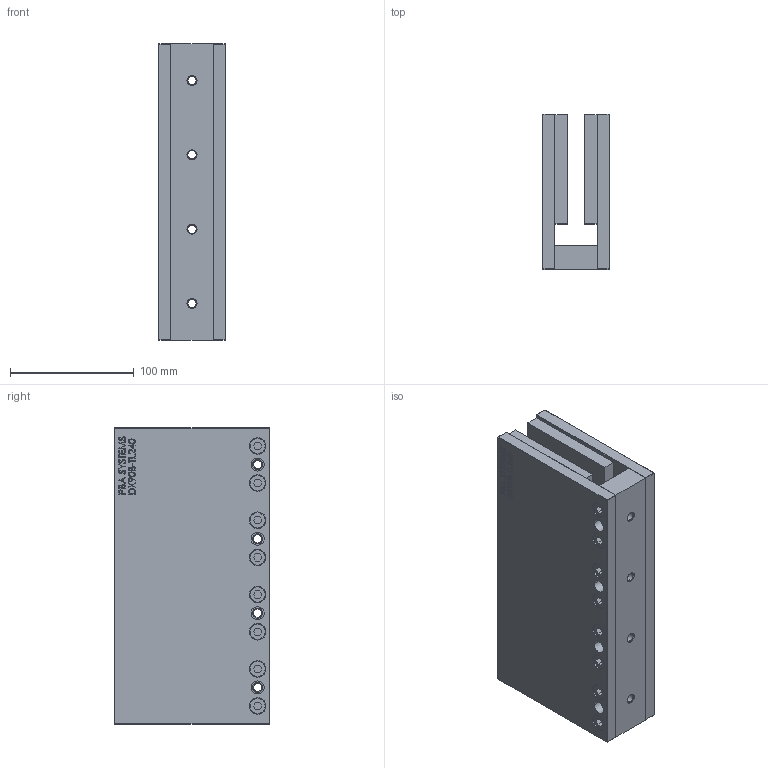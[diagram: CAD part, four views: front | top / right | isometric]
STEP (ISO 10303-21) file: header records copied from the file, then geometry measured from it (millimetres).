
FILE_DESCRIPTION (( 'STEP AP214' ), '1' );
FILE_NAME ('DX90B-TL240.STEP', '2016-05-12T01:06:02', ( '' ), ( '' ), 'SwSTEP 2.0', 'SolidWorks 2015', '' );
FILE_SCHEMA (( 'AUTOMOTIVE_DESIGN' ));
Length unit declared in the file: millimetre
Products named in the file (5): DX90B-TL240; M8X16 DIN7984 STAINLESS STEEL; DX90B-0000-001_CUSTOMER_TL240; DX90B-TL240-002; DX90B-TL240-001_TL240
Assembly tree (21 placements, depth 2):
  DX90B-TL240
    DX90B-TL240-001_TL240
    DX90B-TL240-002  x2
    DX90B-0000-001_CUSTOMER_TL240  x2
    M8X16 DIN7984 STAINLESS STEEL  x16
Bounding box: 54 x 125 x 239.5 mm (x, y, z)
Volume: 1143442.5 mm3; surface area: 283669.6 mm2
Topology: 21 solids, 21 shells, 1166 faces, 2812 edges, 1792 vertices
Faces by surface type: plane 596, bspline 218, cylinder 192, cone 96, torus 64
Entity records: 21574 total; most frequent: CARTESIAN_POINT 9307, ORIENTED_EDGE 2492, DIRECTION 2072, EDGE_CURVE 1246, VERTEX_POINT 786, VECTOR 786, LINE 786, AXIS2_PLACEMENT_3D 643
